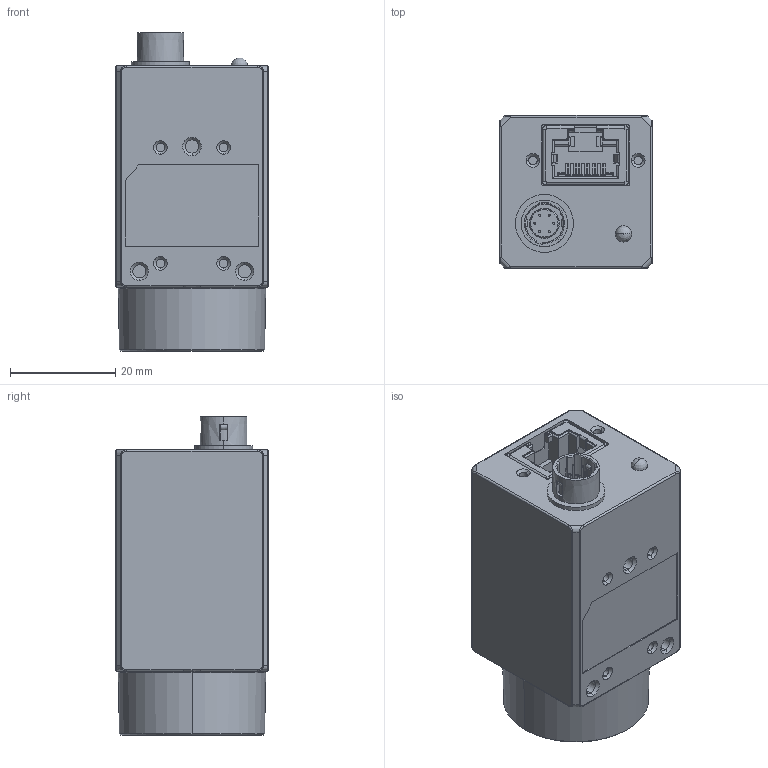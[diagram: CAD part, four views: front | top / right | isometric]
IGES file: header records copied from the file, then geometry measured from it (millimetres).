
Start section:  PTC IGES file: MV-CE020-10GC.igs
Global section: file name: MV-CE020-10GC.igs; native system: Creo Parametric by PTC Inc.; preprocessor: 2017260; author: wangyijun6; organization: Unknown; date: 20200311.105640; units: millimetre
Bounding box: 29 x 29 x 60.48 mm (x, y, z)
Volume: 33984 mm3; surface area: 14245.1 mm2
Topology: 1 solids, 1 shells, 1196 faces, 3515 edges, 2292 vertices
Faces by surface type: bspline 835, revolution 361
